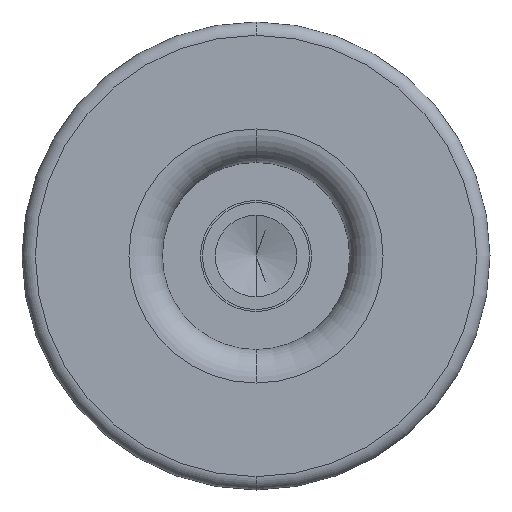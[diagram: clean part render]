
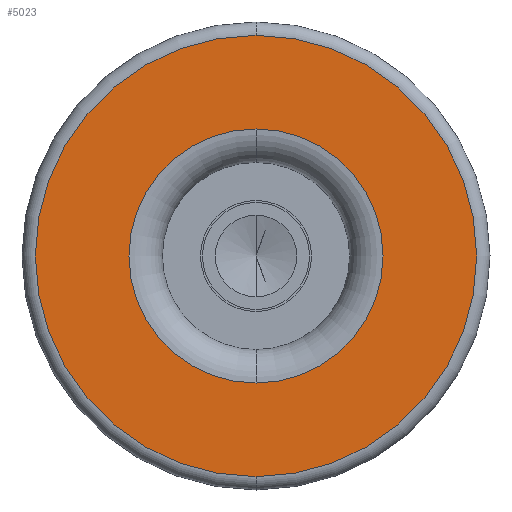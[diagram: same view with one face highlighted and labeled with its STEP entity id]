
A CAD part, front view. The second image highlights one B-rep face of the part: STEP entity #5023.
In plain terms, the highlighted planar face has unit normal (0, -1, 0).
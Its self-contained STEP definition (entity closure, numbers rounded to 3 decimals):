
#175 = CARTESIAN_POINT ( 'NONE',  ( 0., 0., 0. ) ) ;
#191 = CARTESIAN_POINT ( 'NONE',  ( 0., 0., -9.5 ) ) ;
#377 = AXIS2_PLACEMENT_3D ( 'NONE', #3532, #6025, #4834 ) ;
#1380 = EDGE_LOOP ( 'NONE', ( #2502, #6976 ) ) ;
#1529 = DIRECTION ( 'NONE',  ( 0., 1., 0. ) ) ;
#1549 = VERTEX_POINT ( 'NONE', #2818 ) ;
#1616 = AXIS2_PLACEMENT_3D ( 'NONE', #2440, #3091, #2547 ) ;
#1790 = AXIS2_PLACEMENT_3D ( 'NONE', #5406, #1529, #6052 ) ;
#1802 = VERTEX_POINT ( 'NONE', #7871 ) ;
#1904 = EDGE_CURVE ( 'NONE', #3734, #1549, #2806, .T. ) ;
#2021 = EDGE_CURVE ( 'NONE', #1549, #3734, #7578, .T. ) ;
#2440 = CARTESIAN_POINT ( 'NONE',  ( 0., 0., 0. ) ) ;
#2502 = ORIENTED_EDGE ( 'NONE', *, *, #4639, .T. ) ;
#2547 = DIRECTION ( 'NONE',  ( 0., 0., -1. ) ) ;
#2806 = CIRCLE ( 'NONE', #377, 9.5 ) ;
#2818 = CARTESIAN_POINT ( 'NONE',  ( 0., 0., 9.5 ) ) ;
#2901 = DIRECTION ( 'NONE',  ( 0., 0., -1. ) ) ;
#3032 = VERTEX_POINT ( 'NONE', #6725 ) ;
#3091 = DIRECTION ( 'NONE',  ( 0., -1., 0. ) ) ;
#3532 = CARTESIAN_POINT ( 'NONE',  ( 0., 0., 0. ) ) ;
#3734 = VERTEX_POINT ( 'NONE', #191 ) ;
#4241 = ORIENTED_EDGE ( 'NONE', *, *, #2021, .T. ) ;
#4563 = AXIS2_PLACEMENT_3D ( 'NONE', #6789, #8122, #2901 ) ;
#4639 = EDGE_CURVE ( 'NONE', #3032, #1802, #6296, .T. ) ;
#4677 = DIRECTION ( 'NONE',  ( 0., 0., -1. ) ) ;
#4834 = DIRECTION ( 'NONE',  ( 0., 0., -1. ) ) ;
#4893 = ORIENTED_EDGE ( 'NONE', *, *, #1904, .T. ) ;
#5023 = ADVANCED_FACE ( 'NONE', ( #5982, #7522 ), #7474, .T. ) ;
#5212 = DIRECTION ( 'NONE',  ( 0., -1., 0. ) ) ;
#5406 = CARTESIAN_POINT ( 'NONE',  ( 0., 0., 0. ) ) ;
#5454 = AXIS2_PLACEMENT_3D ( 'NONE', #175, #5212, #4677 ) ;
#5982 = FACE_BOUND ( 'NONE', #8169, .T. ) ;
#6025 = DIRECTION ( 'NONE',  ( 0., 1., 0. ) ) ;
#6052 = DIRECTION ( 'NONE',  ( 0., 0., -1. ) ) ;
#6296 = CIRCLE ( 'NONE', #5454, 16.5 ) ;
#6725 = CARTESIAN_POINT ( 'NONE',  ( 0., 0., -16.5 ) ) ;
#6789 = CARTESIAN_POINT ( 'NONE',  ( -7., 0., 0. ) ) ;
#6976 = ORIENTED_EDGE ( 'NONE', *, *, #7071, .T. ) ;
#7071 = EDGE_CURVE ( 'NONE', #1802, #3032, #7189, .T. ) ;
#7189 = CIRCLE ( 'NONE', #1616, 16.5 ) ;
#7474 = PLANE ( 'NONE',  #4563 ) ;
#7522 = FACE_OUTER_BOUND ( 'NONE', #1380, .T. ) ;
#7578 = CIRCLE ( 'NONE', #1790, 9.5 ) ;
#7871 = CARTESIAN_POINT ( 'NONE',  ( 0., 0., 16.5 ) ) ;
#8122 = DIRECTION ( 'NONE',  ( 0., -1., 0. ) ) ;
#8169 = EDGE_LOOP ( 'NONE', ( #4893, #4241 ) ) ;
